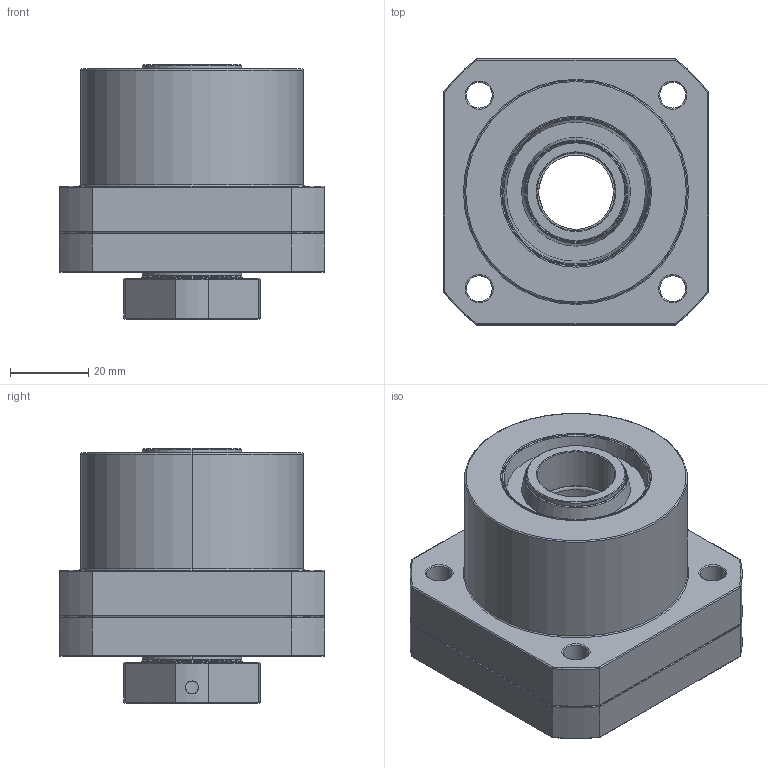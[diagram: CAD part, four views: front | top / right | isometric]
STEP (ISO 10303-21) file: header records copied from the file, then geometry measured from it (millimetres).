
FILE_DESCRIPTION (( 'STEP AP214' ), '1' );
FILE_NAME ('2.4039 Kuularuuvin tukilaakeri FK20.STEP', '2025-10-03T12:27:44', ( '' ), ( '' ), 'SwSTEP 2.0', 'SolidWorks 2025', '' );
FILE_SCHEMA (( 'AUTOMOTIVE_DESIGN' ));
Length unit declared in the file: millimetre
Products named in the file (9): angular contact ball bearing_68_din_DIN 628 - 7204B - 10,SI,NC,10_68; Cover_FK20 - Cover; Space Ring 2; Lock Nut_GRLN20-B; Seal_FK20 - Seal; Space Ring_GSR20-B; Housing_FK 20 - Housing; socket countersunk head screw_din_DIN 7991 - M6 x 16 --- 16N; 2.4039 Kuularuuvin tukilaakeri FK20
Assembly tree (13 placements, depth 2):
  2.4039 Kuularuuvin tukilaakeri FK20
    Housing_FK 20 - Housing
    Cover_FK20 - Cover
    Space Ring_GSR20-B
    Seal_FK20 - Seal  x2
    Lock Nut_GRLN20-B
    angular contact ball bearing_68_din_DIN 628 - 7204B - 10,SI,NC,10_68  x2
    socket countersunk head screw_din_DIN 7991 - M6 x 16 --- 16N  x4
    Space Ring 2
Bounding box: 68 x 68 x 65 mm (x, y, z)
Volume: 140182.1 mm3; surface area: 66887.8 mm2
Topology: 13 solids, 13 shells, 520 faces, 1163 edges, 680 vertices
Faces by surface type: plane 148, cylinder 134, cone 106, torus 100, bspline 32
Entity records: 17991 total; most frequent: CARTESIAN_POINT 4550, DIRECTION 1895, ORIENTED_EDGE 1762, EDGE_CURVE 881, AXIS2_PLACEMENT_3D 760, VERTEX_POINT 527, EDGE_LOOP 452, UNCERTAINTY_MEASURE_WITH_UNIT 415
